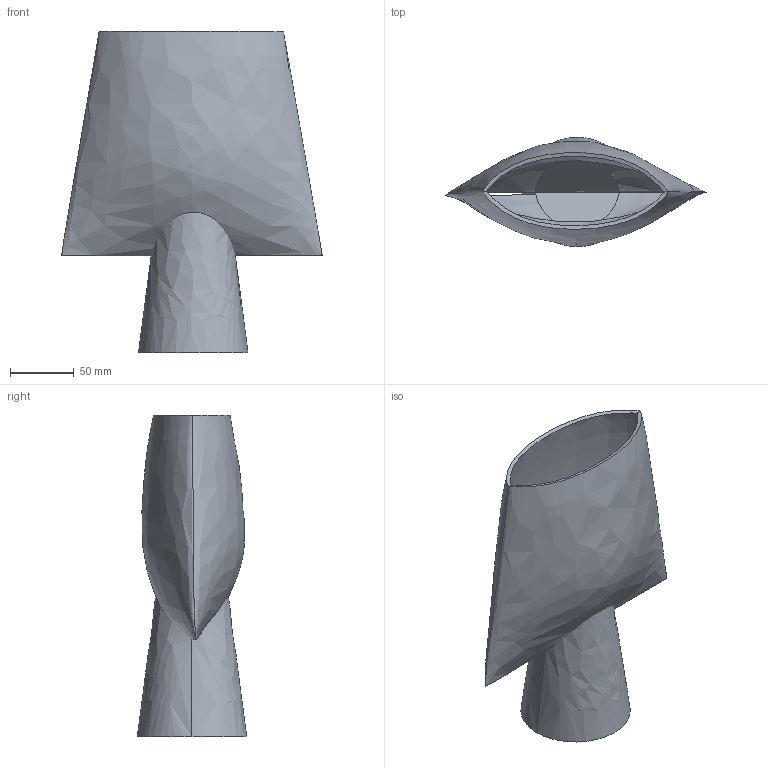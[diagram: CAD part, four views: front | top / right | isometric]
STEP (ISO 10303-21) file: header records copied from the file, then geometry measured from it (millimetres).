
FILE_DESCRIPTION(/* description */ (''),/* implementation_level */ '2;1');
FILE_NAME(/* name */ 'Sphere Vase Square Mini',/* time_stamp */ '2020-07-07T11:51:27+02:00',/* author */ (''),/* organization */ (''),/* preprocessor_version */ 'ST-DEVELOPER v15',/* originating_system */ '',/* authorisation */ '');
FILE_SCHEMA (('AUTOMOTIVE_DESIGN'));
Length unit declared in the file: millimetre
Products named in the file (1): Document
Bounding box: 203.75 x 85.52 x 251.69 mm (x, y, z)
Volume: 392167.2 mm3; surface area: 157635.6 mm2
Topology: 1 solids, 4 shells, 11 faces, 27 edges, 18 vertices
Faces by surface type: bspline 8, plane 3
Entity records: 3718 total; most frequent: CARTESIAN_POINT 3519, ORIENTED_EDGE 42, EDGE_CURVE 27, B_SPLINE_CURVE_WITH_KNOTS 25, VERTEX_POINT 18, ADVANCED_FACE 11, FACE_OUTER_BOUND 11, EDGE_LOOP 11
